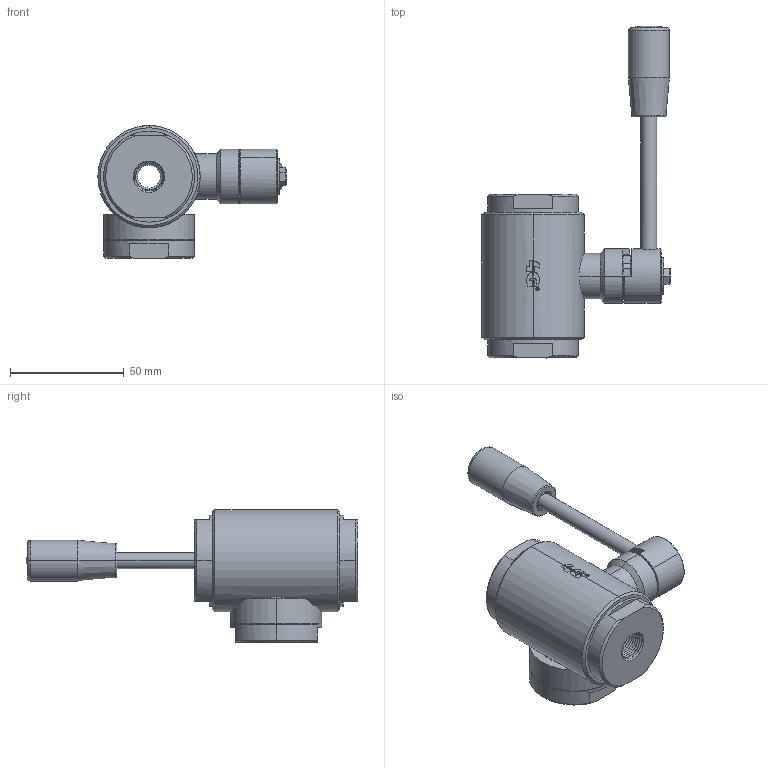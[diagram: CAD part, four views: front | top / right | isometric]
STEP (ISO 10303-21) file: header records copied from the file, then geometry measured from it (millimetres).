
FILE_DESCRIPTION((''),'2;1');
FILE_NAME('30010160410_SW0001','2025-04-03T15:20:03',('tecnico2'),('CDM Tecnoconsulting'),'CREO PARAMETRIC BY PTC INC, 2024063','CREO PARAMETRIC BY PTC INC, 2024063','');
FILE_SCHEMA(('CONFIG_CONTROL_DESIGN','SHAPE_APPEARANCE_LAYERS_GROUPS'));
Products named in the file (1): 30010160410_SW0001
Bounding box: 82.8 x 146 x 58.5 mm (x, y, z)
Volume: 130887.2 mm3; surface area: 42166.7 mm2
Topology: 1 solids, 2 shells, 839 faces, 2239 edges, 1407 vertices
Faces by surface type: plane 289, cylinder 214, cone 140, extrusion 102, bspline 58, torus 32, sphere 4
Entity records: 64393 total; most frequent: CARTESIAN_POINT 34685, ORIENTED_EDGE 4434, DIRECTION 3630, PRESENTATION_STYLE_ASSIGNMENT 2709, STYLED_ITEM 2320, CURVE_STYLE 2319, EDGE_CURVE 2217, VERTEX_POINT 1407
